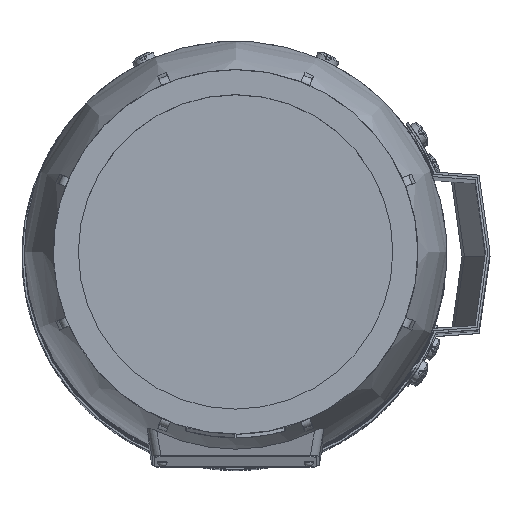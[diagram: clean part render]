
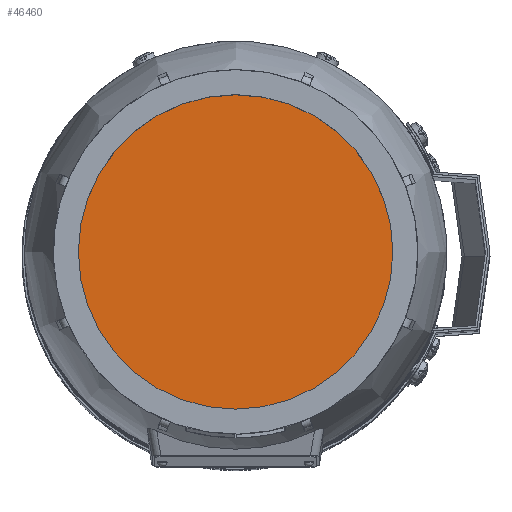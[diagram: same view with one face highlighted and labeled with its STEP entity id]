
A CAD part, top view. The second image highlights one B-rep face of the part: STEP entity #46460.
In plain terms, the highlighted planar face has unit normal (0, 0, 1) as drawn and (0, 1, 0) by its records, which use the part's own axes.
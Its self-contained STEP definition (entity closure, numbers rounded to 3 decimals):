
#9793=ORIENTED_EDGE('',*,*,#23849,.F.);
#23849=EDGE_CURVE('',#30877,#30877,#35607,.T.);
#30877=VERTEX_POINT('',#67068);
#35607=CIRCLE('',#48999,67.736);
#37730=EDGE_LOOP('',(#9793));
#41084=FACE_BOUND('',#37730,.T.);
#44456=PLANE('',#48998);
#46460=ADVANCED_FACE('',(#41084),#44456,.F.);
#48998=AXIS2_PLACEMENT_3D('',#67066,#53589,#53590);
#48999=AXIS2_PLACEMENT_3D('',#67067,#53591,#53592);
#53589=DIRECTION('',(0.,-1.,0.));
#53590=DIRECTION('',(0.,0.,-1.));
#53591=DIRECTION('',(0.,-1.,0.));
#53592=DIRECTION('',(0.,0.,-1.));
#67066=CARTESIAN_POINT('',(0.,154.,0.));
#67067=CARTESIAN_POINT('',(0.,154.,0.));
#67068=CARTESIAN_POINT('',(0.,154.,-67.736));
